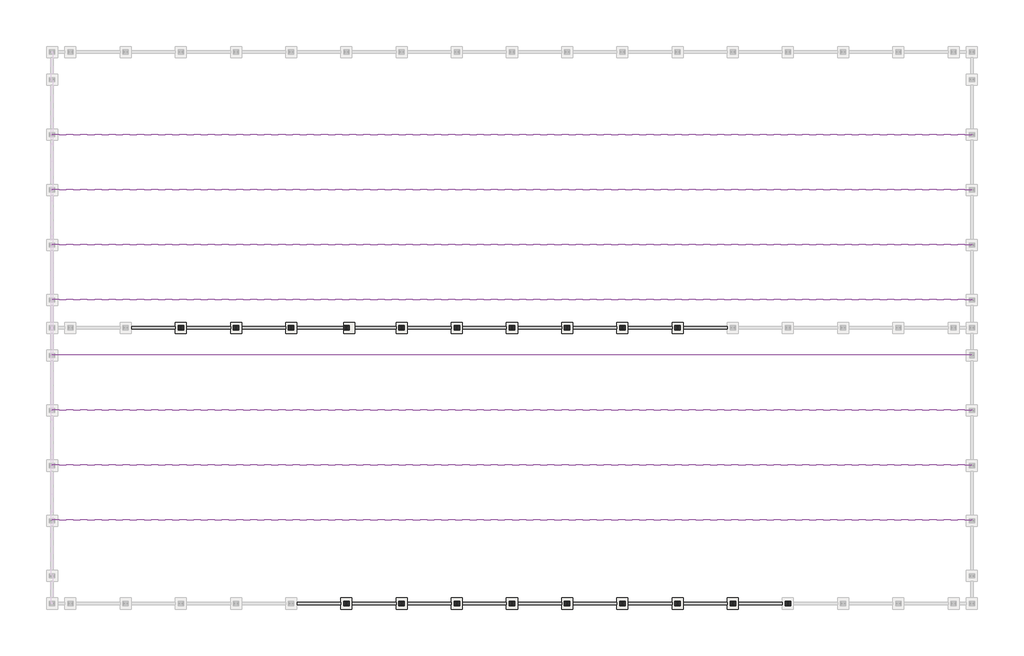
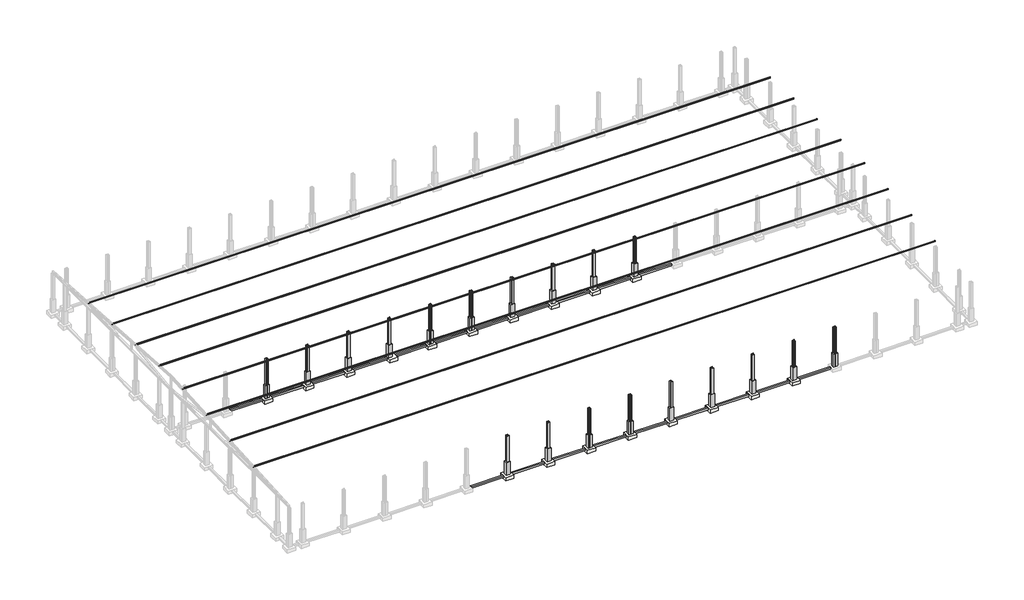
# One storey, part 2 of 4: 38 columns, 28 beams, 18 slabs.
"""IFC4 building model written with IfcOpenShell, lengths in millimetres."""

from ifc_helpers import new_model, si_unit, frame, origin, place, context, project, spatial, polyline, outline, extrude, faceted_brep, transform, mapped, element, save
from components import ub_universal_beams_bf60295c, columns_rectangular_450x600mm_2512dfd8, uc_universal_columns_column_uc305x305x97_76abc542

model = new_model("IFC4")

# Units and contexts
model_context = context("Model", 3, world=origin())
ifc_project = project(units=[si_unit("LENGTHUNIT", "METRE", prefix="MILLI")], contexts=[model_context])

# Site, building, storey
site = spatial("IfcSite", under=ifc_project)
building = spatial("IfcBuilding", under=site)
storey = spatial("IfcBuildingStorey", under=building, Name="Kota 0", Elevation=0.0)

# Beams
placement = place(None, origin())
element("IfcBeam", 1, ObjectType="Concrete-Rectangular Beam : 16 x 32", at=placement, inside=storey, context=model_context, shape_type="SweptSolid", body=[
    extrude(outline(polyline([(22463.6750595, -52841.8171651), (22463.6750595, -53091.8171651), (17663.6750595, -53091.8171651), (17663.6750595, -52841.8171651), (22463.6750595, -52841.8171651)])), frame((0.0, 0.0, -250.0), z_axis=(0.0, 0.0, 1.0), x_axis=(1.0, 0.0, 0.0)), (0.0, 0.0, 1.0), 250.0),
])
element("IfcBeam", 2, ObjectType="Concrete-Rectangular Beam : 16 x 32", at=placement, inside=storey, context=model_context, shape_type="SweptSolid", body=[
    extrude(outline(polyline([(28463.6750595, -52841.8171651), (28463.6750595, -53091.8171651), (23663.6750595, -53091.8171651), (23663.6750595, -52841.8171651), (28463.6750595, -52841.8171651)])), frame((0.0, 0.0, -250.0), z_axis=(0.0, 0.0, 1.0), x_axis=(1.0, 0.0, 0.0)), (0.0, 0.0, 1.0), 250.0),
])
element("IfcBeam", 3, ObjectType="Concrete-Rectangular Beam : 16 x 32", at=placement, inside=storey, context=model_context, shape_type="SweptSolid", body=[
    extrude(outline(polyline([(34463.6750595, -52841.8171651), (34463.6750595, -53091.8171651), (29663.6750595, -53091.8171651), (29663.6750595, -52841.8171651), (34463.6750595, -52841.8171651)])), frame((0.0, 0.0, -250.0), z_axis=(0.0, 0.0, 1.0), x_axis=(1.0, 0.0, 0.0)), (0.0, 0.0, 1.0), 250.0),
])
element("IfcBeam", 4, ObjectType="Concrete-Rectangular Beam : 16 x 32", at=placement, inside=storey, context=model_context, shape_type="SweptSolid", body=[
    extrude(outline(polyline([(40463.6750595, -52841.8171651), (40463.6750595, -53091.8171651), (35663.6750595, -53091.8171651), (35663.6750595, -52841.8171651), (40463.6750595, -52841.8171651)])), frame((0.0, 0.0, -250.0), z_axis=(0.0, 0.0, 1.0), x_axis=(1.0, 0.0, 0.0)), (0.0, 0.0, 1.0), 250.0),
])
element("IfcBeam", 5, ObjectType="Concrete-Rectangular Beam : 16 x 32", at=placement, inside=storey, context=model_context, shape_type="SweptSolid", body=[
    extrude(outline(polyline([(46463.6750595, -52841.8171651), (46463.6750595, -53091.8171651), (41663.6750595, -53091.8171651), (41663.6750595, -52841.8171651), (46463.6750595, -52841.8171651)])), frame((0.0, 0.0, -250.0), z_axis=(0.0, 0.0, 1.0), x_axis=(1.0, 0.0, 0.0)), (0.0, 0.0, 1.0), 250.0),
])
element("IfcBeam", 6, ObjectType="Concrete-Rectangular Beam : 16 x 32", at=placement, inside=storey, context=model_context, shape_type="SweptSolid", body=[
    extrude(outline(polyline([(52463.6750595, -52841.8171651), (52463.6750595, -53091.8171651), (47663.6750595, -53091.8171651), (47663.6750595, -52841.8171651), (52463.6750595, -52841.8171651)])), frame((0.0, 0.0, -250.0), z_axis=(0.0, 0.0, 1.0), x_axis=(1.0, 0.0, 0.0)), (0.0, 0.0, 1.0), 250.0),
])
element("IfcBeam", 7, ObjectType="Concrete-Rectangular Beam : 16 x 32", at=placement, inside=storey, context=model_context, shape_type="SweptSolid", body=[
    extrude(outline(polyline([(58463.6750595, -52841.8171651), (58463.6750595, -53091.8171651), (53663.6750595, -53091.8171651), (53663.6750595, -52841.8171651), (58463.6750595, -52841.8171651)])), frame((0.0, 0.0, -250.0), z_axis=(0.0, 0.0, 1.0), x_axis=(1.0, 0.0, 0.0)), (0.0, 0.0, 1.0), 250.0),
])
element("IfcBeam", 8, ObjectType="Concrete-Rectangular Beam : 16 x 32", at=placement, inside=storey, context=model_context, shape_type="SweptSolid", body=[
    extrude(outline(polyline([(64463.6750595, -52841.8171651), (64463.6750595, -53091.8171651), (59663.6750595, -53091.8171651), (59663.6750595, -52841.8171651), (64463.6750595, -52841.8171651)])), frame((0.0, 0.0, -250.0), z_axis=(0.0, 0.0, 1.0), x_axis=(1.0, 0.0, 0.0)), (0.0, 0.0, 1.0), 250.0),
])
element("IfcBeam", 9, ObjectType="Concrete-Rectangular Beam : 16 x 32", at=placement, inside=storey, context=model_context, shape_type="SweptSolid", body=[
    extrude(outline(polyline([(70463.6750595, -52841.8171651), (70463.6750595, -53091.8171651), (65663.6750595, -53091.8171651), (65663.6750595, -52841.8171651), (70463.6750595, -52841.8171651)])), frame((0.0, 0.0, -250.0), z_axis=(0.0, 0.0, 1.0), x_axis=(1.0, 0.0, 0.0)), (0.0, 0.0, 1.0), 250.0),
])
element("IfcBeam", 10, ObjectType="Concrete-Rectangular Beam : 16 x 32", at=placement, inside=storey, context=model_context, shape_type="SweptSolid", body=[
    extrude(outline(polyline([(-336.3249405, -23091.8171651), (-336.3249405, -22841.8171651), (4463.6750595, -22841.8171651), (4463.6750595, -23091.8171651), (-336.3249405, -23091.8171651)])), frame((0.0, 0.0, -250.0), z_axis=(0.0, 0.0, 1.0), x_axis=(1.0, 0.0, 0.0)), (0.0, 0.0, 1.0), 250.0),
])
element("IfcBeam", 11, ObjectType="Concrete-Rectangular Beam : 16 x 32", at=placement, inside=storey, context=model_context, shape_type="SweptSolid", body=[
    extrude(outline(polyline([(5663.6750595, -23091.8171651), (5663.6750595, -22841.8171651), (10463.6750595, -22841.8171651), (10463.6750595, -23091.8171651), (5663.6750595, -23091.8171651)])), frame((0.0, 0.0, -250.0), z_axis=(0.0, 0.0, 1.0), x_axis=(1.0, 0.0, 0.0)), (0.0, 0.0, 1.0), 250.0),
])
element("IfcBeam", 12, ObjectType="Concrete-Rectangular Beam : 16 x 32", at=placement, inside=storey, context=model_context, shape_type="SweptSolid", body=[
    extrude(outline(polyline([(11663.6750595, -23091.8171651), (11663.6750595, -22841.8171651), (16463.6750595, -22841.8171651), (16463.6750595, -23091.8171651), (11663.6750595, -23091.8171651)])), frame((0.0, 0.0, -250.0), z_axis=(0.0, 0.0, 1.0), x_axis=(1.0, 0.0, 0.0)), (0.0, 0.0, 1.0), 250.0),
])
element("IfcBeam", 13, ObjectType="Concrete-Rectangular Beam : 16 x 32", at=placement, inside=storey, context=model_context, shape_type="SweptSolid", body=[
    extrude(outline(polyline([(17663.6750595, -23091.8171651), (17663.6750595, -22841.8171651), (22763.6750595, -22841.8171651), (22763.6750595, -23091.8171651), (17663.6750595, -23091.8171651)])), frame((0.0, 0.0, -250.0), z_axis=(0.0, 0.0, 1.0), x_axis=(1.0, 0.0, 0.0)), (0.0, 0.0, 1.0), 250.0),
])
element("IfcBeam", 14, ObjectType="Concrete-Rectangular Beam : 16 x 32", at=placement, inside=storey, context=model_context, shape_type="SweptSolid", body=[
    extrude(outline(polyline([(23963.6750595, -23091.8171651), (23963.6750595, -22841.8171651), (28463.6750595, -22841.8171651), (28463.6750595, -23091.8171651), (23963.6750595, -23091.8171651)])), frame((0.0, 0.0, -250.0), z_axis=(0.0, 0.0, 1.0), x_axis=(1.0, 0.0, 0.0)), (0.0, 0.0, 1.0), 250.0),
])
element("IfcBeam", 15, ObjectType="Concrete-Rectangular Beam : 16 x 32", at=placement, inside=storey, context=model_context, shape_type="SweptSolid", body=[
    extrude(outline(polyline([(29663.6750595, -23091.8171651), (29663.6750595, -22841.8171651), (34463.6750595, -22841.8171651), (34463.6750595, -23091.8171651), (29663.6750595, -23091.8171651)])), frame((0.0, 0.0, -250.0), z_axis=(0.0, 0.0, 1.0), x_axis=(1.0, 0.0, 0.0)), (0.0, 0.0, 1.0), 250.0),
])
element("IfcBeam", 16, ObjectType="Concrete-Rectangular Beam : 16 x 32", at=placement, inside=storey, context=model_context, shape_type="SweptSolid", body=[
    extrude(outline(polyline([(35663.6750595, -23091.8171651), (35663.6750595, -22841.8171651), (40463.6750595, -22841.8171651), (40463.6750595, -23091.8171651), (35663.6750595, -23091.8171651)])), frame((0.0, 0.0, -250.0), z_axis=(0.0, 0.0, 1.0), x_axis=(1.0, 0.0, 0.0)), (0.0, 0.0, 1.0), 250.0),
])
element("IfcBeam", 17, ObjectType="Concrete-Rectangular Beam : 16 x 32", at=placement, inside=storey, context=model_context, shape_type="SweptSolid", body=[
    extrude(outline(polyline([(41663.6750595, -23091.8171651), (41663.6750595, -22841.8171651), (46463.6750595, -22841.8171651), (46463.6750595, -23091.8171651), (41663.6750595, -23091.8171651)])), frame((0.0, 0.0, -250.0), z_axis=(0.0, 0.0, 1.0), x_axis=(1.0, 0.0, 0.0)), (0.0, 0.0, 1.0), 250.0),
])
element("IfcBeam", 18, ObjectType="Concrete-Rectangular Beam : 16 x 32", at=placement, inside=storey, context=model_context, shape_type="SweptSolid", body=[
    extrude(outline(polyline([(47663.6750595, -23091.8171651), (47663.6750595, -22841.8171651), (52463.6750595, -22841.8171651), (52463.6750595, -23091.8171651), (47663.6750595, -23091.8171651)])), frame((0.0, 0.0, -250.0), z_axis=(0.0, 0.0, 1.0), x_axis=(1.0, 0.0, 0.0)), (0.0, 0.0, 1.0), 250.0),
])
element("IfcBeam", 19, ObjectType="Concrete-Rectangular Beam : 16 x 32", at=placement, inside=storey, context=model_context, shape_type="SweptSolid", body=[
    extrude(outline(polyline([(53663.6750595, -23091.8171651), (53663.6750595, -22841.8171651), (58463.6750595, -22841.8171651), (58463.6750595, -23091.8171651), (53663.6750595, -23091.8171651)])), frame((0.0, 0.0, -250.0), z_axis=(0.0, 0.0, 1.0), x_axis=(1.0, 0.0, 0.0)), (0.0, 0.0, 1.0), 250.0),
])
element("IfcBeam", 20, ObjectType="Concrete-Rectangular Beam : 16 x 32", at=placement, inside=storey, context=model_context, shape_type="SweptSolid", body=[
    extrude(outline(polyline([(59663.6750595, -23091.8171651), (59663.6750595, -22841.8171651), (64463.6750595, -22841.8171651), (64463.6750595, -23091.8171651), (59663.6750595, -23091.8171651)])), frame((0.0, 0.0, -250.0), z_axis=(0.0, 0.0, 1.0), x_axis=(1.0, 0.0, 0.0)), (0.0, 0.0, 1.0), 250.0),
])
ub_universal_beams_shape = ub_universal_beams_bf60295c(model_context)
element("IfcBeam", 21, ObjectType="UB-Universal Beams : Vezne grede resetke", at=placement, inside=storey, context=model_context, shape_type="MappedRepresentation", body=[
    mapped(ub_universal_beams_shape, transform((41063.6750595, -43865.1604786, 6827.6132823), x_axis=(1.0, 0.0, 0.0), y_axis=(0.0, 0.9977782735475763, 0.06662219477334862), z_axis=(0.0, -0.06662219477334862, 0.9977782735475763))),
])
element("IfcBeam", 22, ObjectType="UB-Universal Beams : Vezne grede resetke", at=placement, inside=storey, context=model_context, shape_type="MappedRepresentation", body=[
    mapped(ub_universal_beams_shape, transform((41063.6750595, -37878.4495315, 7226.7273454), x_axis=(1.0, 0.0, 0.0), y_axis=(0.0, 0.9977782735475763, 0.06662219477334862), z_axis=(0.0, -0.06662219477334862, 0.9977782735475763))),
])
element("IfcBeam", 23, ObjectType="UB-Universal Beams : Vezne grede resetke", at=placement, inside=storey, context=model_context, shape_type="MappedRepresentation", body=[
    mapped(ub_universal_beams_shape, transform((41063.6750595, -31891.7385843, 7625.8414086), x_axis=(1.0, 0.0, 0.0), y_axis=(0.0, 0.9977782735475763, 0.06662219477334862), z_axis=(0.0, -0.06662219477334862, 0.9977782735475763))),
])
element("IfcBeam", 24, ObjectType="UB-Universal Beams : Vezne grede resetke", at=placement, inside=storey, context=model_context, shape_type="MappedRepresentation", body=[
    mapped(ub_universal_beams_shape, transform((41063.6750595, -25905.0276372, 8024.9554717), x_axis=(1.0, 0.0, 0.0), y_axis=(0.0, 0.9977782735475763, 0.06662219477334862), z_axis=(0.0, -0.06662219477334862, 0.9977782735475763))),
])
element("IfcBeam", 25, ObjectType="UB-Universal Beams : Vezne grede resetke", at=placement, inside=storey, context=model_context, shape_type="MappedRepresentation", body=[
    mapped(ub_universal_beams_shape, transform((41063.6750595, -19901.6965274, 7975.0665581), x_axis=(1.0, 0.0, 0.0), y_axis=(0.0, 0.9977782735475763, 0.06662219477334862), z_axis=(0.0, -0.06662219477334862, 0.9977782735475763))),
])
element("IfcBeam", 26, ObjectType="UB-Universal Beams : Vezne grede resetke", at=placement, inside=storey, context=model_context, shape_type="MappedRepresentation", body=[
    mapped(ub_universal_beams_shape, transform((41063.6750595, -13914.9855803, 7575.9524949), x_axis=(1.0, 0.0, 0.0), y_axis=(0.0, 0.9977782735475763, 0.06662219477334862), z_axis=(0.0, -0.06662219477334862, 0.9977782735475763))),
])
element("IfcBeam", 27, ObjectType="UB-Universal Beams : Vezne grede resetke", at=placement, inside=storey, context=model_context, shape_type="MappedRepresentation", body=[
    mapped(ub_universal_beams_shape, transform((41063.6750595, -7928.2746332, 7176.8384318), x_axis=(1.0, 0.0, 0.0), y_axis=(0.0, 0.9977782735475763, 0.06662219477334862), z_axis=(0.0, -0.06662219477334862, 0.9977782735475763))),
])
element("IfcBeam", 28, ObjectType="UB-Universal Beams : Vezne grede resetke", at=placement, inside=storey, context=model_context, shape_type="MappedRepresentation", body=[
    mapped(ub_universal_beams_shape, transform((41063.6750595, -1941.563686, 6777.7243686), x_axis=(1.0, 0.0, 0.0), y_axis=(0.0, 0.9977782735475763, 0.06662219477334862), z_axis=(0.0, -0.06662219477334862, 0.9977782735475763))),
])

# Columns
columns_rectangular_450x600mm_shape = columns_rectangular_450x600mm_2512dfd8(model_context)
element("IfcColumn", 29, ObjectType="Columns_Rectangular : 450x600mm", at=placement, inside=storey, context=model_context, shape_type="MappedRepresentation", body=[
    mapped(columns_rectangular_450x600mm_shape, transform((71063.6750595, -52966.8171651, 0.0), x_axis=(1.0, 0.0, 0.0), y_axis=(0.0, 1.0, 0.0), z_axis=(0.0, 0.0, 1.0))),
])
element("IfcColumn", 30, ObjectType="Columns_Rectangular : 450x600mm", at=placement, inside=storey, context=model_context, shape_type="MappedRepresentation", body=[
    mapped(columns_rectangular_450x600mm_shape, transform((65063.6750595, -52966.8171651, 0.0), x_axis=(1.0, 0.0, 0.0), y_axis=(0.0, 1.0, 0.0), z_axis=(0.0, 0.0, 1.0))),
])
element("IfcColumn", 31, ObjectType="Columns_Rectangular : 450x600mm", at=placement, inside=storey, context=model_context, shape_type="MappedRepresentation", body=[
    mapped(columns_rectangular_450x600mm_shape, transform((59063.6750595, -52966.8171651, 0.0), x_axis=(1.0, 0.0, 0.0), y_axis=(0.0, 1.0, 0.0), z_axis=(0.0, 0.0, 1.0))),
])
element("IfcColumn", 32, ObjectType="Columns_Rectangular : 450x600mm", at=placement, inside=storey, context=model_context, shape_type="MappedRepresentation", body=[
    mapped(columns_rectangular_450x600mm_shape, transform((53063.6750595, -52966.8171651, 0.0), x_axis=(1.0, 0.0, 0.0), y_axis=(0.0, 1.0, 0.0), z_axis=(0.0, 0.0, 1.0))),
])
element("IfcColumn", 33, ObjectType="Columns_Rectangular : 450x600mm", at=placement, inside=storey, context=model_context, shape_type="MappedRepresentation", body=[
    mapped(columns_rectangular_450x600mm_shape, transform((47063.6750595, -52966.8171651, 0.0), x_axis=(1.0, 0.0, 0.0), y_axis=(0.0, 1.0, 0.0), z_axis=(0.0, 0.0, 1.0))),
])
element("IfcColumn", 34, ObjectType="Columns_Rectangular : 450x600mm", at=placement, inside=storey, context=model_context, shape_type="MappedRepresentation", body=[
    mapped(columns_rectangular_450x600mm_shape, transform((41063.6750595, -52966.8171651, 0.0), x_axis=(1.0, 0.0, 0.0), y_axis=(0.0, 1.0, 0.0), z_axis=(0.0, 0.0, 1.0))),
])
element("IfcColumn", 35, ObjectType="Columns_Rectangular : 450x600mm", at=placement, inside=storey, context=model_context, shape_type="MappedRepresentation", body=[
    mapped(columns_rectangular_450x600mm_shape, transform((35063.6750595, -52966.8171651, 0.0), x_axis=(1.0, 0.0, 0.0), y_axis=(0.0, 1.0, 0.0), z_axis=(0.0, 0.0, 1.0))),
])
element("IfcColumn", 36, ObjectType="Columns_Rectangular : 450x600mm", at=placement, inside=storey, context=model_context, shape_type="MappedRepresentation", body=[
    mapped(columns_rectangular_450x600mm_shape, transform((29063.6750595, -52966.8171651, 0.0), x_axis=(1.0, 0.0, 0.0), y_axis=(0.0, 1.0, 0.0), z_axis=(0.0, 0.0, 1.0))),
])
element("IfcColumn", 37, ObjectType="Columns_Rectangular : 450x600mm", at=placement, inside=storey, context=model_context, shape_type="MappedRepresentation", body=[
    mapped(columns_rectangular_450x600mm_shape, transform((23063.6750595, -52966.8171651, 0.0), x_axis=(1.0, 0.0, 0.0), y_axis=(0.0, 1.0, 0.0), z_axis=(0.0, 0.0, 1.0))),
])
element("IfcColumn", 38, ObjectType="Columns_Rectangular : 450x600mm", at=placement, inside=storey, context=model_context, shape_type="MappedRepresentation", body=[
    mapped(columns_rectangular_450x600mm_shape, transform((5063.6750595, -22966.8171651, 0.0), x_axis=(1.0, 0.0, 0.0), y_axis=(0.0, 1.0, 0.0), z_axis=(0.0, 0.0, 1.0))),
])
element("IfcColumn", 39, ObjectType="Columns_Rectangular : 450x600mm", at=placement, inside=storey, context=model_context, shape_type="MappedRepresentation", body=[
    mapped(columns_rectangular_450x600mm_shape, transform((11063.6750595, -22966.8171651, 0.0), x_axis=(1.0, 0.0, 0.0), y_axis=(0.0, 1.0, 0.0), z_axis=(0.0, 0.0, 1.0))),
])
element("IfcColumn", 40, ObjectType="Columns_Rectangular : 450x600mm", at=placement, inside=storey, context=model_context, shape_type="MappedRepresentation", body=[
    mapped(columns_rectangular_450x600mm_shape, transform((17063.6750595, -22966.8171651, 0.0), x_axis=(1.0, 0.0, 0.0), y_axis=(0.0, 1.0, 0.0), z_axis=(0.0, 0.0, 1.0))),
])
element("IfcColumn", 41, ObjectType="Columns_Rectangular : 450x600mm", at=placement, inside=storey, context=model_context, shape_type="MappedRepresentation", body=[
    mapped(columns_rectangular_450x600mm_shape, transform((23063.6750595, -22966.8171651, 0.0), x_axis=(1.0, 0.0, 0.0), y_axis=(0.0, 1.0, 0.0), z_axis=(0.0, 0.0, 1.0))),
])
element("IfcColumn", 42, ObjectType="Columns_Rectangular : 450x600mm", at=placement, inside=storey, context=model_context, shape_type="MappedRepresentation", body=[
    mapped(columns_rectangular_450x600mm_shape, transform((29063.6750595, -22966.8171651, 0.0), x_axis=(1.0, 0.0, 0.0), y_axis=(0.0, 1.0, 0.0), z_axis=(0.0, 0.0, 1.0))),
])
element("IfcColumn", 43, ObjectType="Columns_Rectangular : 450x600mm", at=placement, inside=storey, context=model_context, shape_type="MappedRepresentation", body=[
    mapped(columns_rectangular_450x600mm_shape, transform((35063.6750595, -22966.8171651, 0.0), x_axis=(1.0, 0.0, 0.0), y_axis=(0.0, 1.0, 0.0), z_axis=(0.0, 0.0, 1.0))),
])
element("IfcColumn", 44, ObjectType="Columns_Rectangular : 450x600mm", at=placement, inside=storey, context=model_context, shape_type="MappedRepresentation", body=[
    mapped(columns_rectangular_450x600mm_shape, transform((41063.6750595, -22966.8171651, 0.0), x_axis=(1.0, 0.0, 0.0), y_axis=(0.0, 1.0, 0.0), z_axis=(0.0, 0.0, 1.0))),
])
element("IfcColumn", 45, ObjectType="Columns_Rectangular : 450x600mm", at=placement, inside=storey, context=model_context, shape_type="MappedRepresentation", body=[
    mapped(columns_rectangular_450x600mm_shape, transform((47063.6750595, -22966.8171651, 0.0), x_axis=(1.0, 0.0, 0.0), y_axis=(0.0, 1.0, 0.0), z_axis=(0.0, 0.0, 1.0))),
])
element("IfcColumn", 46, ObjectType="Columns_Rectangular : 450x600mm", at=placement, inside=storey, context=model_context, shape_type="MappedRepresentation", body=[
    mapped(columns_rectangular_450x600mm_shape, transform((53063.6750595, -22966.8171651, 0.0), x_axis=(1.0, 0.0, 0.0), y_axis=(0.0, 1.0, 0.0), z_axis=(0.0, 0.0, 1.0))),
])
element("IfcColumn", 47, ObjectType="Columns_Rectangular : 450x600mm", at=placement, inside=storey, context=model_context, shape_type="MappedRepresentation", body=[
    mapped(columns_rectangular_450x600mm_shape, transform((59063.6750595, -22966.8171651, 0.0), x_axis=(1.0, 0.0, 0.0), y_axis=(0.0, 1.0, 0.0), z_axis=(0.0, 0.0, 1.0))),
])
uc_universal_columns_column_uc305x305x97_shape = uc_universal_columns_column_uc305x305x97_76abc542(model_context)
element("IfcColumn", 48, ObjectType="UC-Universal Columns-Column : UC305x305x97", at=placement, inside=storey, context=model_context, shape_type="MappedRepresentation", body=[
    mapped(uc_universal_columns_column_uc305x305x97_shape, transform((23063.6750595, -52966.8171651, 0.0), x_axis=(1.0, 0.0, 0.0), y_axis=(0.0, 1.0, 0.0), z_axis=(0.0, 0.0, 1.0))),
])
element("IfcColumn", 49, ObjectType="UC-Universal Columns-Column : UC305x305x97", at=placement, inside=storey, context=model_context, shape_type="MappedRepresentation", body=[
    mapped(uc_universal_columns_column_uc305x305x97_shape, transform((29063.6750595, -52966.8171651, 0.0), x_axis=(1.0, 0.0, 0.0), y_axis=(0.0, 1.0, 0.0), z_axis=(0.0, 0.0, 1.0))),
])
element("IfcColumn", 50, ObjectType="UC-Universal Columns-Column : UC305x305x97", at=placement, inside=storey, context=model_context, shape_type="MappedRepresentation", body=[
    mapped(uc_universal_columns_column_uc305x305x97_shape, transform((35063.6750595, -52966.8171651, 0.0), x_axis=(1.0, 0.0, 0.0), y_axis=(0.0, 1.0, 0.0), z_axis=(0.0, 0.0, 1.0))),
])
element("IfcColumn", 51, ObjectType="UC-Universal Columns-Column : UC305x305x97", at=placement, inside=storey, context=model_context, shape_type="MappedRepresentation", body=[
    mapped(uc_universal_columns_column_uc305x305x97_shape, transform((41063.6750595, -52966.8171651, 0.0), x_axis=(1.0, 0.0, 0.0), y_axis=(0.0, 1.0, 0.0), z_axis=(0.0, 0.0, 1.0))),
])
element("IfcColumn", 52, ObjectType="UC-Universal Columns-Column : UC305x305x97", at=placement, inside=storey, context=model_context, shape_type="MappedRepresentation", body=[
    mapped(uc_universal_columns_column_uc305x305x97_shape, transform((47063.6750595, -52966.8171651, 0.0), x_axis=(1.0, 0.0, 0.0), y_axis=(0.0, 1.0, 0.0), z_axis=(0.0, 0.0, 1.0))),
])
element("IfcColumn", 53, ObjectType="UC-Universal Columns-Column : UC305x305x97", at=placement, inside=storey, context=model_context, shape_type="MappedRepresentation", body=[
    mapped(uc_universal_columns_column_uc305x305x97_shape, transform((53063.6750595, -52966.8171651, 0.0), x_axis=(1.0, 0.0, 0.0), y_axis=(0.0, 1.0, 0.0), z_axis=(0.0, 0.0, 1.0))),
])
element("IfcColumn", 54, ObjectType="UC-Universal Columns-Column : UC305x305x97", at=placement, inside=storey, context=model_context, shape_type="MappedRepresentation", body=[
    mapped(uc_universal_columns_column_uc305x305x97_shape, transform((59063.6750595, -52966.8171651, 0.0), x_axis=(1.0, 0.0, 0.0), y_axis=(0.0, 1.0, 0.0), z_axis=(0.0, 0.0, 1.0))),
])
element("IfcColumn", 55, ObjectType="UC-Universal Columns-Column : UC305x305x97", at=placement, inside=storey, context=model_context, shape_type="MappedRepresentation", body=[
    mapped(uc_universal_columns_column_uc305x305x97_shape, transform((65063.6750595, -52966.8171651, 0.0), x_axis=(1.0, 0.0, 0.0), y_axis=(0.0, 1.0, 0.0), z_axis=(0.0, 0.0, 1.0))),
])
element("IfcColumn", 56, ObjectType="UC-Universal Columns-Column : UC305x305x97", at=placement, inside=storey, context=model_context, shape_type="MappedRepresentation", body=[
    mapped(uc_universal_columns_column_uc305x305x97_shape, transform((71063.6750595, -52966.8171651, 0.0), x_axis=(1.0, 0.0, 0.0), y_axis=(0.0, 1.0, 0.0), z_axis=(0.0, 0.0, 1.0))),
])
element("IfcColumn", 57, ObjectType="UC-Universal Columns-Column : UC305x305x97", at=placement, inside=storey, context=model_context, shape_type="MappedRepresentation", body=[
    mapped(uc_universal_columns_column_uc305x305x97_shape, transform((5063.6750595, -22966.8171651, 0.0), x_axis=(-1.0, 0.0, 0.0), y_axis=(0.0, -1.0, 0.0), z_axis=(0.0, 0.0, 1.0))),
])
element("IfcColumn", 58, ObjectType="UC-Universal Columns-Column : UC305x305x97", at=placement, inside=storey, context=model_context, shape_type="MappedRepresentation", body=[
    mapped(uc_universal_columns_column_uc305x305x97_shape, transform((11063.6750595, -22966.8171651, 0.0), x_axis=(-1.0, 0.0, 0.0), y_axis=(0.0, -1.0, 0.0), z_axis=(0.0, 0.0, 1.0))),
])
element("IfcColumn", 59, ObjectType="UC-Universal Columns-Column : UC305x305x97", at=placement, inside=storey, context=model_context, shape_type="MappedRepresentation", body=[
    mapped(uc_universal_columns_column_uc305x305x97_shape, transform((17063.6750595, -22966.8171651, 0.0), x_axis=(-1.0, 0.0, 0.0), y_axis=(0.0, -1.0, 0.0), z_axis=(0.0, 0.0, 1.0))),
])
element("IfcColumn", 60, ObjectType="UC-Universal Columns-Column : UC305x305x97", at=placement, inside=storey, context=model_context, shape_type="MappedRepresentation", body=[
    mapped(uc_universal_columns_column_uc305x305x97_shape, transform((23063.6750595, -22966.8171651, 0.0), x_axis=(-1.0, 0.0, 0.0), y_axis=(0.0, -1.0, 0.0), z_axis=(0.0, 0.0, 1.0))),
])
element("IfcColumn", 61, ObjectType="UC-Universal Columns-Column : UC305x305x97", at=placement, inside=storey, context=model_context, shape_type="MappedRepresentation", body=[
    mapped(uc_universal_columns_column_uc305x305x97_shape, transform((29063.6750595, -22966.8171651, 0.0), x_axis=(-1.0, 0.0, 0.0), y_axis=(0.0, -1.0, 0.0), z_axis=(0.0, 0.0, 1.0))),
])
element("IfcColumn", 62, ObjectType="UC-Universal Columns-Column : UC305x305x97", at=placement, inside=storey, context=model_context, shape_type="MappedRepresentation", body=[
    mapped(uc_universal_columns_column_uc305x305x97_shape, transform((35063.6750595, -22966.8171651, 0.0), x_axis=(-1.0, 0.0, 0.0), y_axis=(0.0, -1.0, 0.0), z_axis=(0.0, 0.0, 1.0))),
])
element("IfcColumn", 63, ObjectType="UC-Universal Columns-Column : UC305x305x97", at=placement, inside=storey, context=model_context, shape_type="MappedRepresentation", body=[
    mapped(uc_universal_columns_column_uc305x305x97_shape, transform((41063.6750595, -22966.8171651, 0.0), x_axis=(-1.0, 0.0, 0.0), y_axis=(0.0, -1.0, 0.0), z_axis=(0.0, 0.0, 1.0))),
])
element("IfcColumn", 64, ObjectType="UC-Universal Columns-Column : UC305x305x97", at=placement, inside=storey, context=model_context, shape_type="MappedRepresentation", body=[
    mapped(uc_universal_columns_column_uc305x305x97_shape, transform((47063.6750595, -22966.8171651, 0.0), x_axis=(-1.0, 0.0, 0.0), y_axis=(0.0, -1.0, 0.0), z_axis=(0.0, 0.0, 1.0))),
])
element("IfcColumn", 65, ObjectType="UC-Universal Columns-Column : UC305x305x97", at=placement, inside=storey, context=model_context, shape_type="MappedRepresentation", body=[
    mapped(uc_universal_columns_column_uc305x305x97_shape, transform((53063.6750595, -22966.8171651, 0.0), x_axis=(-1.0, 0.0, 0.0), y_axis=(0.0, -1.0, 0.0), z_axis=(0.0, 0.0, 1.0))),
])
element("IfcColumn", 66, ObjectType="UC-Universal Columns-Column : UC305x305x97", at=placement, inside=storey, context=model_context, shape_type="MappedRepresentation", body=[
    mapped(uc_universal_columns_column_uc305x305x97_shape, transform((59063.6750595, -22966.8171651, 0.0), x_axis=(-1.0, 0.0, 0.0), y_axis=(0.0, -1.0, 0.0), z_axis=(0.0, 0.0, 1.0))),
])

# Slabs
element("IfcSlab", 67, ObjectType="Footing-Rectangular.0001 : 72\" x 48\" x 18\"", at=placement, inside=storey, context=model_context, shape_type="Brep", body=[
    faceted_brep([(65663.6750595, -52366.8171651, 0.0), (64463.6750595, -52366.8171651, 0.0), (64463.6750595, -52841.8171651, 0.0), (64463.6750595, -53091.8171651, 0.0), (64463.6750595, -53566.8171651, 0.0), (65663.6750595, -53566.8171651, 0.0), (65663.6750595, -53091.8171651, 0.0), (65663.6750595, -52841.8171651, 0.0), (65663.6750595, -52366.8171651, -500.0), (65663.6750595, -53566.8171651, -500.0), (64463.6750595, -53566.8171651, -500.0), (64463.6750595, -52366.8171651, -500.0)], [[[0, 1, 2, 3, 4, 5, 6, 7]], [[8, 9, 10, 11]], [[1, 0, 8, 11]], [[4, 3, 2, 1, 11, 10]], [[5, 4, 10, 9]], [[0, 7, 6, 5, 9, 8]]]),
])
element("IfcSlab", 68, ObjectType="Footing-Rectangular.0001 : 72\" x 48\" x 18\"", at=placement, inside=storey, context=model_context, shape_type="Brep", body=[
    faceted_brep([(59663.6750595, -52366.8171651, 0.0), (58463.6750595, -52366.8171651, 0.0), (58463.6750595, -52841.8171651, 0.0), (58463.6750595, -53091.8171651, 0.0), (58463.6750595, -53566.8171651, 0.0), (59663.6750595, -53566.8171651, 0.0), (59663.6750595, -53091.8171651, 0.0), (59663.6750595, -52841.8171651, 0.0), (59663.6750595, -52366.8171651, -500.0), (59663.6750595, -53566.8171651, -500.0), (58463.6750595, -53566.8171651, -500.0), (58463.6750595, -52366.8171651, -500.0)], [[[0, 1, 2, 3, 4, 5, 6, 7]], [[8, 9, 10, 11]], [[1, 0, 8, 11]], [[4, 3, 2, 1, 11, 10]], [[5, 4, 10, 9]], [[0, 7, 6, 5, 9, 8]]]),
])
element("IfcSlab", 69, ObjectType="Footing-Rectangular.0001 : 72\" x 48\" x 18\"", at=placement, inside=storey, context=model_context, shape_type="Brep", body=[
    faceted_brep([(53663.6750595, -52366.8171651, 0.0), (52463.6750595, -52366.8171651, 0.0), (52463.6750595, -52841.8171651, 0.0), (52463.6750595, -53091.8171651, 0.0), (52463.6750595, -53566.8171651, 0.0), (53663.6750595, -53566.8171651, 0.0), (53663.6750595, -53091.8171651, 0.0), (53663.6750595, -52841.8171651, 0.0), (53663.6750595, -52366.8171651, -500.0), (53663.6750595, -53566.8171651, -500.0), (52463.6750595, -53566.8171651, -500.0), (52463.6750595, -52366.8171651, -500.0)], [[[0, 1, 2, 3, 4, 5, 6, 7]], [[8, 9, 10, 11]], [[1, 0, 8, 11]], [[4, 3, 2, 1, 11, 10]], [[5, 4, 10, 9]], [[0, 7, 6, 5, 9, 8]]]),
])
element("IfcSlab", 70, ObjectType="Footing-Rectangular.0001 : 72\" x 48\" x 18\"", at=placement, inside=storey, context=model_context, shape_type="Brep", body=[
    faceted_brep([(47663.6750595, -52366.8171651, 0.0), (46463.6750595, -52366.8171651, 0.0), (46463.6750595, -52841.8171651, 0.0), (46463.6750595, -53091.8171651, 0.0), (46463.6750595, -53566.8171651, 0.0), (47663.6750595, -53566.8171651, 0.0), (47663.6750595, -53091.8171651, 0.0), (47663.6750595, -52841.8171651, 0.0), (47663.6750595, -52366.8171651, -500.0), (47663.6750595, -53566.8171651, -500.0), (46463.6750595, -53566.8171651, -500.0), (46463.6750595, -52366.8171651, -500.0)], [[[0, 1, 2, 3, 4, 5, 6, 7]], [[8, 9, 10, 11]], [[1, 0, 8, 11]], [[4, 3, 2, 1, 11, 10]], [[5, 4, 10, 9]], [[0, 7, 6, 5, 9, 8]]]),
])
element("IfcSlab", 71, ObjectType="Footing-Rectangular.0001 : 72\" x 48\" x 18\"", at=placement, inside=storey, context=model_context, shape_type="Brep", body=[
    faceted_brep([(41663.6750595, -52366.8171651, 0.0), (40463.6750595, -52366.8171651, 0.0), (40463.6750595, -52841.8171651, 0.0), (40463.6750595, -53091.8171651, 0.0), (40463.6750595, -53566.8171651, 0.0), (41663.6750595, -53566.8171651, 0.0), (41663.6750595, -53091.8171651, 0.0), (41663.6750595, -52841.8171651, 0.0), (41663.6750595, -52366.8171651, -500.0), (41663.6750595, -53566.8171651, -500.0), (40463.6750595, -53566.8171651, -500.0), (40463.6750595, -52366.8171651, -500.0)], [[[0, 1, 2, 3, 4, 5, 6, 7]], [[8, 9, 10, 11]], [[1, 0, 8, 11]], [[4, 3, 2, 1, 11, 10]], [[5, 4, 10, 9]], [[0, 7, 6, 5, 9, 8]]]),
])
element("IfcSlab", 72, ObjectType="Footing-Rectangular.0001 : 72\" x 48\" x 18\"", at=placement, inside=storey, context=model_context, shape_type="Brep", body=[
    faceted_brep([(35663.6750595, -52366.8171651, 0.0), (34463.6750595, -52366.8171651, 0.0), (34463.6750595, -52841.8171651, 0.0), (34463.6750595, -53091.8171651, 0.0), (34463.6750595, -53566.8171651, 0.0), (35663.6750595, -53566.8171651, 0.0), (35663.6750595, -53091.8171651, 0.0), (35663.6750595, -52841.8171651, 0.0), (35663.6750595, -52366.8171651, -500.0), (35663.6750595, -53566.8171651, -500.0), (34463.6750595, -53566.8171651, -500.0), (34463.6750595, -52366.8171651, -500.0)], [[[0, 1, 2, 3, 4, 5, 6, 7]], [[8, 9, 10, 11]], [[1, 0, 8, 11]], [[4, 3, 2, 1, 11, 10]], [[5, 4, 10, 9]], [[0, 7, 6, 5, 9, 8]]]),
])
element("IfcSlab", 73, ObjectType="Footing-Rectangular.0001 : 72\" x 48\" x 18\"", at=placement, inside=storey, context=model_context, shape_type="Brep", body=[
    faceted_brep([(29663.6750595, -52366.8171651, 0.0), (28463.6750595, -52366.8171651, 0.0), (28463.6750595, -52841.8171651, 0.0), (28463.6750595, -53091.8171651, 0.0), (28463.6750595, -53566.8171651, 0.0), (29663.6750595, -53566.8171651, 0.0), (29663.6750595, -53091.8171651, 0.0), (29663.6750595, -52841.8171651, 0.0), (29663.6750595, -52366.8171651, -500.0), (29663.6750595, -53566.8171651, -500.0), (28463.6750595, -53566.8171651, -500.0), (28463.6750595, -52366.8171651, -500.0)], [[[0, 1, 2, 3, 4, 5, 6, 7]], [[8, 9, 10, 11]], [[1, 0, 8, 11]], [[4, 3, 2, 1, 11, 10]], [[5, 4, 10, 9]], [[0, 7, 6, 5, 9, 8]]]),
])
element("IfcSlab", 74, ObjectType="Footing-Rectangular.0001 : 72\" x 48\" x 18\"", at=placement, inside=storey, context=model_context, shape_type="Brep", body=[
    faceted_brep([(23663.6750595, -52366.8171651, 0.0), (22463.6750595, -52366.8171651, 0.0), (22463.6750595, -52841.8171651, 0.0), (22463.6750595, -53091.8171651, 0.0), (22463.6750595, -53566.8171651, 0.0), (23663.6750595, -53566.8171651, 0.0), (23663.6750595, -53091.8171651, 0.0), (23663.6750595, -52841.8171651, 0.0), (23663.6750595, -52366.8171651, -500.0), (23663.6750595, -53566.8171651, -500.0), (22463.6750595, -53566.8171651, -500.0), (22463.6750595, -52366.8171651, -500.0)], [[[0, 1, 2, 3, 4, 5, 6, 7]], [[8, 9, 10, 11]], [[1, 0, 8, 11]], [[4, 3, 2, 1, 11, 10]], [[5, 4, 10, 9]], [[0, 7, 6, 5, 9, 8]]]),
])
element("IfcSlab", 75, ObjectType="Footing-Rectangular.0001 : 72\" x 48\" x 18\"", at=placement, inside=storey, context=model_context, shape_type="Brep", body=[
    faceted_brep([(5663.6750595, -22366.8171651, 0.0), (4463.6750595, -22366.8171651, 0.0), (4463.6750595, -22841.8171651, 0.0), (4463.6750595, -23091.8171651, 0.0), (4463.6750595, -23566.8171651, 0.0), (5663.6750595, -23566.8171651, 0.0), (5663.6750595, -23091.8171651, 0.0), (5663.6750595, -22841.8171651, 0.0), (5663.6750595, -22366.8171651, -500.0), (5663.6750595, -23566.8171651, -500.0), (4463.6750595, -23566.8171651, -500.0), (4463.6750595, -22366.8171651, -500.0)], [[[0, 1, 2, 3, 4, 5, 6, 7]], [[8, 9, 10, 11]], [[1, 0, 8, 11]], [[4, 3, 2, 1, 11, 10]], [[5, 4, 10, 9]], [[0, 7, 6, 5, 9, 8]]]),
])
element("IfcSlab", 76, ObjectType="Footing-Rectangular.0001 : 72\" x 48\" x 18\"", at=placement, inside=storey, context=model_context, shape_type="Brep", body=[
    faceted_brep([(11663.6750595, -22366.8171651, 0.0), (10463.6750595, -22366.8171651, 0.0), (10463.6750595, -22841.8171651, 0.0), (10463.6750595, -23091.8171651, 0.0), (10463.6750595, -23566.8171651, 0.0), (11663.6750595, -23566.8171651, 0.0), (11663.6750595, -23091.8171651, 0.0), (11663.6750595, -22841.8171651, 0.0), (11663.6750595, -22366.8171651, -500.0), (11663.6750595, -23566.8171651, -500.0), (10463.6750595, -23566.8171651, -500.0), (10463.6750595, -22366.8171651, -500.0)], [[[0, 1, 2, 3, 4, 5, 6, 7]], [[8, 9, 10, 11]], [[1, 0, 8, 11]], [[4, 3, 2, 1, 11, 10]], [[5, 4, 10, 9]], [[0, 7, 6, 5, 9, 8]]]),
])
element("IfcSlab", 77, ObjectType="Footing-Rectangular.0001 : 72\" x 48\" x 18\"", at=placement, inside=storey, context=model_context, shape_type="Brep", body=[
    faceted_brep([(17663.6750595, -22366.8171651, 0.0), (16463.6750595, -22366.8171651, 0.0), (16463.6750595, -22841.8171651, 0.0), (16463.6750595, -23091.8171651, 0.0), (16463.6750595, -23566.8171651, 0.0), (17663.6750595, -23566.8171651, 0.0), (17663.6750595, -23091.8171651, 0.0), (17663.6750595, -22841.8171651, 0.0), (17663.6750595, -22366.8171651, -500.0), (17663.6750595, -23566.8171651, -500.0), (16463.6750595, -23566.8171651, -500.0), (16463.6750595, -22366.8171651, -500.0)], [[[0, 1, 2, 3, 4, 5, 6, 7]], [[8, 9, 10, 11]], [[1, 0, 8, 11]], [[4, 3, 2, 1, 11, 10]], [[5, 4, 10, 9]], [[0, 7, 6, 5, 9, 8]]]),
])
element("IfcSlab", 78, ObjectType="Footing-Rectangular.0001 : 72\" x 48\" x 18\"", at=placement, inside=storey, context=model_context, shape_type="Brep", body=[
    faceted_brep([(23963.6750595, -22366.8171651, 0.0), (22763.6750595, -22366.8171651, 0.0), (22763.6750595, -22841.8171651, 0.0), (22763.6750595, -23091.8171651, 0.0), (22763.6750595, -23566.8171651, 0.0), (23963.6750595, -23566.8171651, 0.0), (23963.6750595, -23091.8171651, 0.0), (23963.6750595, -22841.8171651, 0.0), (23963.6750595, -22366.8171651, -500.0), (23963.6750595, -23566.8171651, -500.0), (22763.6750595, -23566.8171651, -500.0), (22763.6750595, -22366.8171651, -500.0)], [[[0, 1, 2, 3, 4, 5, 6, 7]], [[8, 9, 10, 11]], [[1, 0, 8, 11]], [[4, 3, 2, 1, 11, 10]], [[5, 4, 10, 9]], [[0, 7, 6, 5, 9, 8]]]),
])
element("IfcSlab", 79, ObjectType="Footing-Rectangular.0001 : 72\" x 48\" x 18\"", at=placement, inside=storey, context=model_context, shape_type="Brep", body=[
    faceted_brep([(29663.6750595, -22366.8171651, 0.0), (28463.6750595, -22366.8171651, 0.0), (28463.6750595, -22841.8171651, 0.0), (28463.6750595, -23091.8171651, 0.0), (28463.6750595, -23566.8171651, 0.0), (29663.6750595, -23566.8171651, 0.0), (29663.6750595, -23091.8171651, 0.0), (29663.6750595, -22841.8171651, 0.0), (29663.6750595, -22366.8171651, -500.0), (29663.6750595, -23566.8171651, -500.0), (28463.6750595, -23566.8171651, -500.0), (28463.6750595, -22366.8171651, -500.0)], [[[0, 1, 2, 3, 4, 5, 6, 7]], [[8, 9, 10, 11]], [[1, 0, 8, 11]], [[4, 3, 2, 1, 11, 10]], [[5, 4, 10, 9]], [[0, 7, 6, 5, 9, 8]]]),
])
element("IfcSlab", 80, ObjectType="Footing-Rectangular.0001 : 72\" x 48\" x 18\"", at=placement, inside=storey, context=model_context, shape_type="Brep", body=[
    faceted_brep([(35663.6750595, -22366.8171651, 0.0), (34463.6750595, -22366.8171651, 0.0), (34463.6750595, -22841.8171651, 0.0), (34463.6750595, -23091.8171651, 0.0), (34463.6750595, -23566.8171651, 0.0), (35663.6750595, -23566.8171651, 0.0), (35663.6750595, -23091.8171651, 0.0), (35663.6750595, -22841.8171651, 0.0), (35663.6750595, -22366.8171651, -500.0), (35663.6750595, -23566.8171651, -500.0), (34463.6750595, -23566.8171651, -500.0), (34463.6750595, -22366.8171651, -500.0)], [[[0, 1, 2, 3, 4, 5, 6, 7]], [[8, 9, 10, 11]], [[1, 0, 8, 11]], [[4, 3, 2, 1, 11, 10]], [[5, 4, 10, 9]], [[0, 7, 6, 5, 9, 8]]]),
])
element("IfcSlab", 81, ObjectType="Footing-Rectangular.0001 : 72\" x 48\" x 18\"", at=placement, inside=storey, context=model_context, shape_type="Brep", body=[
    faceted_brep([(41663.6750595, -22366.8171651, 0.0), (40463.6750595, -22366.8171651, 0.0), (40463.6750595, -22841.8171651, 0.0), (40463.6750595, -23091.8171651, 0.0), (40463.6750595, -23566.8171651, 0.0), (41663.6750595, -23566.8171651, 0.0), (41663.6750595, -23091.8171651, 0.0), (41663.6750595, -22841.8171651, 0.0), (41663.6750595, -22366.8171651, -500.0), (41663.6750595, -23566.8171651, -500.0), (40463.6750595, -23566.8171651, -500.0), (40463.6750595, -22366.8171651, -500.0)], [[[0, 1, 2, 3, 4, 5, 6, 7]], [[8, 9, 10, 11]], [[1, 0, 8, 11]], [[4, 3, 2, 1, 11, 10]], [[5, 4, 10, 9]], [[0, 7, 6, 5, 9, 8]]]),
])
element("IfcSlab", 82, ObjectType="Footing-Rectangular.0001 : 72\" x 48\" x 18\"", at=placement, inside=storey, context=model_context, shape_type="Brep", body=[
    faceted_brep([(47663.6750595, -22366.8171651, 0.0), (46463.6750595, -22366.8171651, 0.0), (46463.6750595, -22841.8171651, 0.0), (46463.6750595, -23091.8171651, 0.0), (46463.6750595, -23566.8171651, 0.0), (47663.6750595, -23566.8171651, 0.0), (47663.6750595, -23091.8171651, 0.0), (47663.6750595, -22841.8171651, 0.0), (47663.6750595, -22366.8171651, -500.0), (47663.6750595, -23566.8171651, -500.0), (46463.6750595, -23566.8171651, -500.0), (46463.6750595, -22366.8171651, -500.0)], [[[0, 1, 2, 3, 4, 5, 6, 7]], [[8, 9, 10, 11]], [[1, 0, 8, 11]], [[4, 3, 2, 1, 11, 10]], [[5, 4, 10, 9]], [[0, 7, 6, 5, 9, 8]]]),
])
element("IfcSlab", 83, ObjectType="Footing-Rectangular.0001 : 72\" x 48\" x 18\"", at=placement, inside=storey, context=model_context, shape_type="Brep", body=[
    faceted_brep([(53663.6750595, -22366.8171651, 0.0), (52463.6750595, -22366.8171651, 0.0), (52463.6750595, -22841.8171651, 0.0), (52463.6750595, -23091.8171651, 0.0), (52463.6750595, -23566.8171651, 0.0), (53663.6750595, -23566.8171651, 0.0), (53663.6750595, -23091.8171651, 0.0), (53663.6750595, -22841.8171651, 0.0), (53663.6750595, -22366.8171651, -500.0), (53663.6750595, -23566.8171651, -500.0), (52463.6750595, -23566.8171651, -500.0), (52463.6750595, -22366.8171651, -500.0)], [[[0, 1, 2, 3, 4, 5, 6, 7]], [[8, 9, 10, 11]], [[1, 0, 8, 11]], [[4, 3, 2, 1, 11, 10]], [[5, 4, 10, 9]], [[0, 7, 6, 5, 9, 8]]]),
])
element("IfcSlab", 84, ObjectType="Footing-Rectangular.0001 : 72\" x 48\" x 18\"", at=placement, inside=storey, context=model_context, shape_type="Brep", body=[
    faceted_brep([(59663.6750595, -22366.8171651, 0.0), (58463.6750595, -22366.8171651, 0.0), (58463.6750595, -22841.8171651, 0.0), (58463.6750595, -23091.8171651, 0.0), (58463.6750595, -23566.8171651, 0.0), (59663.6750595, -23566.8171651, 0.0), (59663.6750595, -23091.8171651, 0.0), (59663.6750595, -22841.8171651, 0.0), (59663.6750595, -22366.8171651, -500.0), (59663.6750595, -23566.8171651, -500.0), (58463.6750595, -23566.8171651, -500.0), (58463.6750595, -22366.8171651, -500.0)], [[[0, 1, 2, 3, 4, 5, 6, 7]], [[8, 9, 10, 11]], [[1, 0, 8, 11]], [[4, 3, 2, 1, 11, 10]], [[5, 4, 10, 9]], [[0, 7, 6, 5, 9, 8]]]),
])

save(model, "model.ifc")
